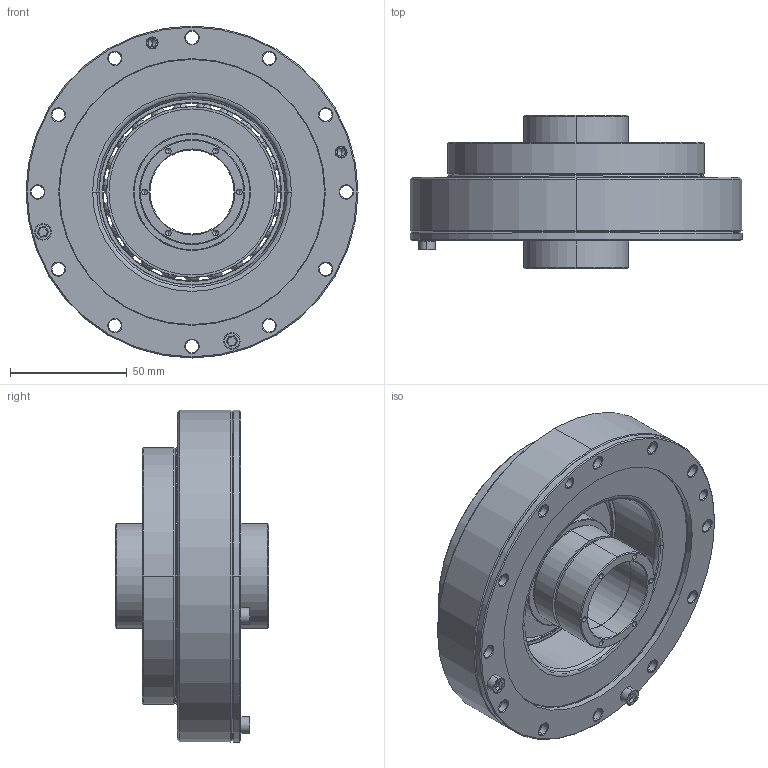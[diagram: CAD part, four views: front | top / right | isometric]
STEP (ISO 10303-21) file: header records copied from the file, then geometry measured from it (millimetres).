
FILE_DESCRIPTION((''),'2;1');
FILE_NAME('LHT-32-XX-U-V_ASM','2017-09-29T',('Administrator'),(''),'PRO/ENGINEER BY PARAMETRIC TECHNOLOGY CORPORATION, 2014200','PRO/ENGINEER BY PARAMETRIC TECHNOLOGY CORPORATION, 2014200','');
FILE_SCHEMA(('AUTOMOTIVE_DESIGN { 1 0 10303 214 1 1 1 1 }'));
Length unit declared in the file: millimetre
Products named in the file (19): MANIFOLD_SOLID_BREP_834_1; MANIFOLD_SOLID_BREP_835_1; MANIFOLD_SOLID_BREP_837_1; MANIFOLD_SOLID_BREP_842_1; MANIFOLD_SOLID_BREP_845_1; MANIFOLD_SOLID_BREP_846_1; MANIFOLD_SOLID_BREP_847_1; MANIFOLD_SOLID_BREP_848_1; MANIFOLD_SOLID_BREP_849_1; MANIFOLD_SOLID_BREP_850_1; MANIFOLD_SOLID_BREP_851_1; MANIFOLD_SOLID_BREP_857_1; MANIFOLD_SOLID_BREP_858_1; MANIFOLD_SOLID_BREP_859_1; MANIFOLD_SOLID_BREP_860_1; ADMI7ED1CHIQ_ASM_1_ASM; 32_1; LHT-32-U-I_ASM_1_ASM; LHT-32-XX-U-V_ASM
Assembly tree (40 placements, depth 4):
  LHT-32-XX-U-V_ASM
    LHT-32-U-I_ASM_1_ASM
      ADMI7ED1CHIQ_ASM_1_ASM
        MANIFOLD_SOLID_BREP_834_1
        MANIFOLD_SOLID_BREP_835_1
        MANIFOLD_SOLID_BREP_837_1
        MANIFOLD_SOLID_BREP_842_1
        MANIFOLD_SOLID_BREP_845_1
        MANIFOLD_SOLID_BREP_846_1
        MANIFOLD_SOLID_BREP_847_1
        MANIFOLD_SOLID_BREP_848_1
        MANIFOLD_SOLID_BREP_849_1  x23
        MANIFOLD_SOLID_BREP_850_1
        MANIFOLD_SOLID_BREP_851_1
        MANIFOLD_SOLID_BREP_857_1
        MANIFOLD_SOLID_BREP_858_1
        MANIFOLD_SOLID_BREP_859_1
        MANIFOLD_SOLID_BREP_860_1
      32_1
Bounding box: 142 x 65.5 x 142 mm (x, y, z)
Volume: 400408.8 mm3; surface area: 176856.4 mm2
Topology: 38 solids, 38 shells, 990 faces, 2741 edges, 1725 vertices
Faces by surface type: cylinder 384, cone 268, plane 134, torus 104, sphere 92, revolution 8
Entity records: 38492 total; most frequent: DIRECTION 5862, CARTESIAN_POINT 5687, ORIENTED_EDGE 4794, AXIS2_PLACEMENT_3D 2533, PRESENTATION_STYLE_ASSIGNMENT 2413, STYLED_ITEM 2413, CURVE_STYLE 2397, EDGE_CURVE 2397
